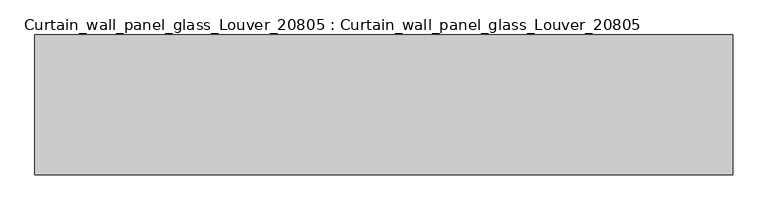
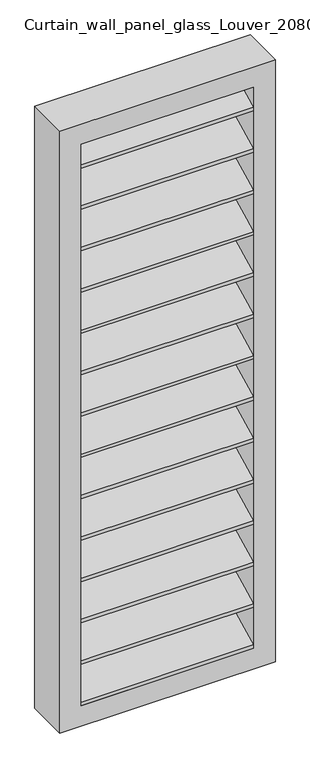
"""IFC4 building model written with IfcOpenShell, lengths in millimetres: plate geometry, Curtain_wall_panel_glass_Louver_20805 : Curtain_wall_panel_glass_Louver_20805."""

from ifc_helpers import new_model, si_unit, frame, origin, place, context, project, spatial, polyline, outline, extrude, source, transform, mapped, element, save


def curtain_wall_panel_glass_louver_20805_curtain_wall_panel_7c52035e(model_context):
    return source(origin(), model_context, "Body", "SweptSolid", [
        extrude(outline(polyline([(200.0, 199.3849981), (0.0, 100.0), (0.0, 116.7499328), (200.0, 216.1349309), (200.0, 199.3849981)])), frame((-400.0, 0.0, 0.0), z_axis=(1.0, 0.0, 0.0), x_axis=(0.0, 1.0, 0.0)), (0.0, 0.0, 1.0), 800.0),
        extrude(outline(polyline([(200.0, 2833.2500672), (0.0, 2733.8650691), (0.0, 2750.6150019), (200.0, 2850.0), (200.0, 2833.2500672)])), frame((-400.0, 0.0, 0.0), z_axis=(1.0, 0.0, 0.0), x_axis=(0.0, 1.0, 0.0)), (0.0, 0.0, 1.0), 800.0),
        extrude(outline(polyline([(200.0, 401.9900034), (0.0, 302.6050053), (0.0, 319.3549382), (200.0, 418.7399363), (200.0, 401.9900034)])), frame((-400.0, 0.0, 0.0), z_axis=(1.0, 0.0, 0.0), x_axis=(0.0, 1.0, 0.0)), (0.0, 0.0, 1.0), 800.0),
        extrude(outline(polyline([(200.0, 604.5950087), (0.0, 505.2100106), (0.0, 521.9599435), (200.0, 621.3449416), (200.0, 604.5950087)])), frame((-400.0, 0.0, 0.0), z_axis=(1.0, 0.0, 0.0), x_axis=(0.0, 1.0, 0.0)), (0.0, 0.0, 1.0), 800.0),
        extrude(outline(polyline([(200.0, 807.200014), (0.0, 707.8150159), (0.0, 724.5649488), (200.0, 823.9499469), (200.0, 807.200014)])), frame((-400.0, 0.0, 0.0), z_axis=(1.0, 0.0, 0.0), x_axis=(0.0, 1.0, 0.0)), (0.0, 0.0, 1.0), 800.0),
        extrude(outline(polyline([(200.0, 1009.8050193), (0.0, 910.4200212), (0.0, 927.1699541), (200.0, 1026.5549522), (200.0, 1009.8050193)])), frame((-400.0, 0.0, 0.0), z_axis=(1.0, 0.0, 0.0), x_axis=(0.0, 1.0, 0.0)), (0.0, 0.0, 1.0), 800.0),
        extrude(outline(polyline([(200.0, 1212.4100247), (0.0, 1113.0250266), (0.0, 1129.7749594), (200.0, 1229.1599575), (200.0, 1212.4100247)])), frame((-400.0, 0.0, 0.0), z_axis=(1.0, 0.0, 0.0), x_axis=(0.0, 1.0, 0.0)), (0.0, 0.0, 1.0), 800.0),
        extrude(outline(polyline([(200.0, 1415.01503), (0.0, 1315.6300319), (0.0, 1332.3799647), (200.0, 1431.7649628), (200.0, 1415.01503)])), frame((-400.0, 0.0, 0.0), z_axis=(1.0, 0.0, 0.0), x_axis=(0.0, 1.0, 0.0)), (0.0, 0.0, 1.0), 800.0),
        extrude(outline(polyline([(200.0, 1617.6200353), (0.0, 1518.2350372), (0.0, 1534.98497), (200.0, 1634.3699681), (200.0, 1617.6200353)])), frame((-400.0, 0.0, 0.0), z_axis=(1.0, 0.0, 0.0), x_axis=(0.0, 1.0, 0.0)), (0.0, 0.0, 1.0), 800.0),
        extrude(outline(polyline([(200.0, 1820.2250406), (0.0, 1720.8400425), (0.0, 1737.5899753), (200.0, 1836.9749734), (200.0, 1820.2250406)])), frame((-400.0, 0.0, 0.0), z_axis=(1.0, 0.0, 0.0), x_axis=(0.0, 1.0, 0.0)), (0.0, 0.0, 1.0), 800.0),
        extrude(outline(polyline([(200.0, 2022.8300459), (0.0, 1923.4450478), (0.0, 1940.1949807), (200.0, 2039.5799788), (200.0, 2022.8300459)])), frame((-400.0, 0.0, 0.0), z_axis=(1.0, 0.0, 0.0), x_axis=(0.0, 1.0, 0.0)), (0.0, 0.0, 1.0), 800.0),
        extrude(outline(polyline([(200.0, 2225.4350512), (0.0, 2126.0500531), (0.0, 2142.799986), (200.0, 2242.1849841), (200.0, 2225.4350512)])), frame((-400.0, 0.0, 0.0), z_axis=(1.0, 0.0, 0.0), x_axis=(0.0, 1.0, 0.0)), (0.0, 0.0, 1.0), 800.0),
        extrude(outline(polyline([(200.0, 2428.0400565), (0.0, 2328.6550584), (0.0, 2345.4049913), (200.0, 2444.7899894), (200.0, 2428.0400565)])), frame((-400.0, 0.0, 0.0), z_axis=(1.0, 0.0, 0.0), x_axis=(0.0, 1.0, 0.0)), (0.0, 0.0, 1.0), 800.0),
        extrude(outline(polyline([(200.0, 2630.6450618), (0.0, 2531.2600637), (0.0, 2548.0099966), (200.0, 2647.3949947), (200.0, 2630.6450618)])), frame((-400.0, 0.0, 0.0), z_axis=(1.0, 0.0, 0.0), x_axis=(0.0, 1.0, 0.0)), (0.0, 0.0, 1.0), 800.0),
        extrude(outline(polyline([(2950.0, -500.0), (0.0, -500.0), (0.0, 500.0), (2950.0, 500.0), (2950.0, -500.0)]), holes=[polyline([(2850.0, -400.0), (2850.0, 400.0), (100.0, 400.0), (100.0, -400.0), (2850.0, -400.0)])]), frame((0.0, 0.0, 0.0), z_axis=(0.0, 1.0, 0.0), x_axis=(0.0, 0.0, 1.0)), (0.0, 0.0, 1.0), 200.0),
    ])


if __name__ == "__main__":
    model = new_model("IFC4")
    model_context = context("Model", 3, world=origin())
    ifc_project = project(units=[si_unit("LENGTHUNIT", "METRE", prefix="MILLI")], contexts=[model_context])
    site = spatial("IfcSite", under=ifc_project)
    building = spatial("IfcBuilding", under=site)
    placement = place(None, origin())
    curtain_wall_panel_glass_louver_20805_curtain_wall_panel_shape = curtain_wall_panel_glass_louver_20805_curtain_wall_panel_7c52035e(model_context)
    element("IfcPlate", 1, ObjectType="Curtain_wall_panel_glass_Louver_20805 : Curtain_wall_panel_glass_Louver_20805", at=placement, inside=building, context=model_context, shape_type="MappedRepresentation", body=[
        mapped(curtain_wall_panel_glass_louver_20805_curtain_wall_panel_shape, transform((0.0, 0.0, 0.0), x_axis=(1.0, 0.0, 0.0), y_axis=(0.0, 1.0, 0.0), z_axis=(0.0, 0.0, 1.0))),
    ])
    save(model, "model.ifc")
